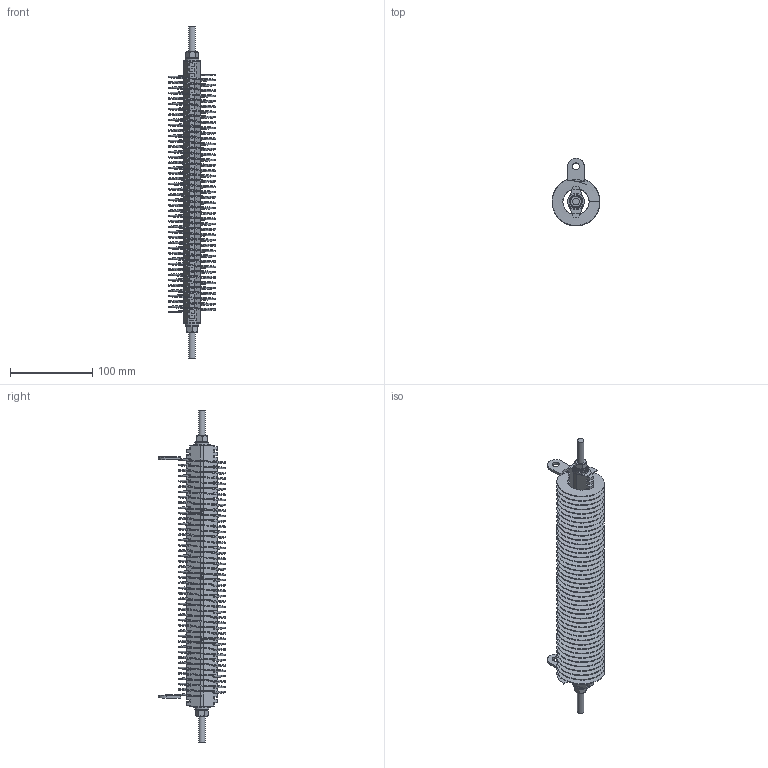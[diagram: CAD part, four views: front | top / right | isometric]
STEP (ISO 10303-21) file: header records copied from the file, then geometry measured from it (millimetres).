
FILE_DESCRIPTION(/* description */ (''),/* implementation_level */ '2;1');
FILE_NAME(/* name */ 'C:\_Vault\Dati\CATALOGO\RNT\RNT Catalogo\RNT 4.stp',/* time_stamp */ '2023-05-16T14:52:23+02:00',/* author */ ('claudio'),/* organization */ ('Fairfild Srl'),/* preprocessor_version */ 'ST-DEVELOPER v18.1',/* originating_system */ 'Autodesk Inventor 2022',/* authorisation */ '');
FILE_SCHEMA (('AUTOMOTIVE_DESIGN { 1 0 10303 214 3 1 1 }'));
Length unit declared in the file: millimetre
Products named in the file (10): RNT 4; 06M008000FZ7500000; 141000G0112M7001CH; RANELLA  ISOL. UNI SF 1630 201x10x0,50; 141000G0112M700001; 58008100208M500200; 600008000FZ9200030; 600008000FZ5100032; 28M008000FZ8800000; RNT 4_1
Assembly tree (17 placements, depth 2):
  RNT 4
    06M008000FZ7500000
    141000G0112M7001CH  x2
    58008100208M500200  x2
    600008000FZ9200030  x2
    600008000FZ5100032  x2
    28M008000FZ8800000  x2
    RANELLA  ISOL. UNI SF 1630 201x10x0,50  x3
    141000G0112M700001  x2
    RNT 4_1
Bounding box: 58 x 82 x 404 mm (x, y, z)
Volume: 243512 mm3; surface area: 241105.6 mm2
Topology: 17 solids, 17 shells, 693 faces, 1986 edges, 1314 vertices
Faces by surface type: cylinder 332, bspline 204, plane 129, cone 28
Full cylindrical faces by diameter (mm): 6.647 x2, 8 x1, 8.4 x2, 8.5 x4, 9 x4, 10 x3, 17 x2, 20 x2, 32 x44, 58 x44
Entity records: 23630 total; most frequent: CARTESIAN_POINT 13979, ORIENTED_EDGE 2312, DIRECTION 1253, EDGE_CURVE 1156, VERTEX_POINT 767, B_SPLINE_CURVE_WITH_KNOTS 607, LINE 437, VECTOR 437
